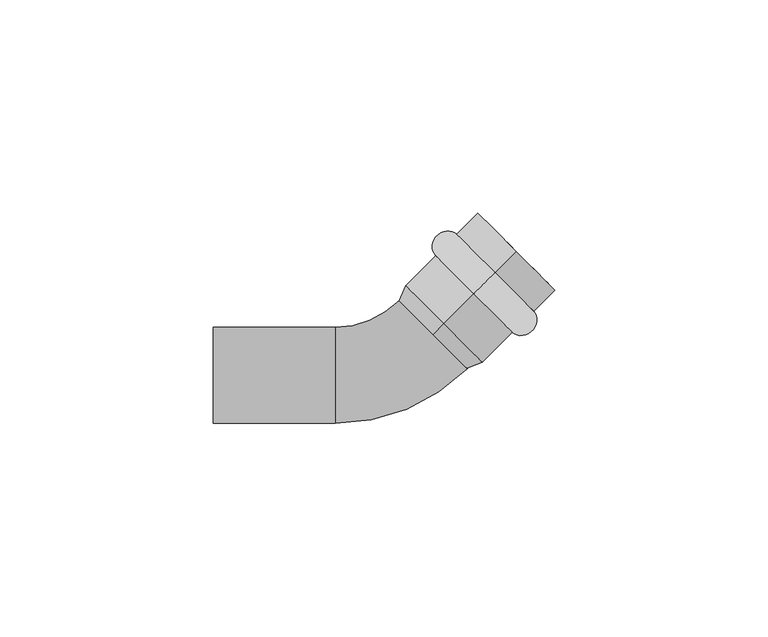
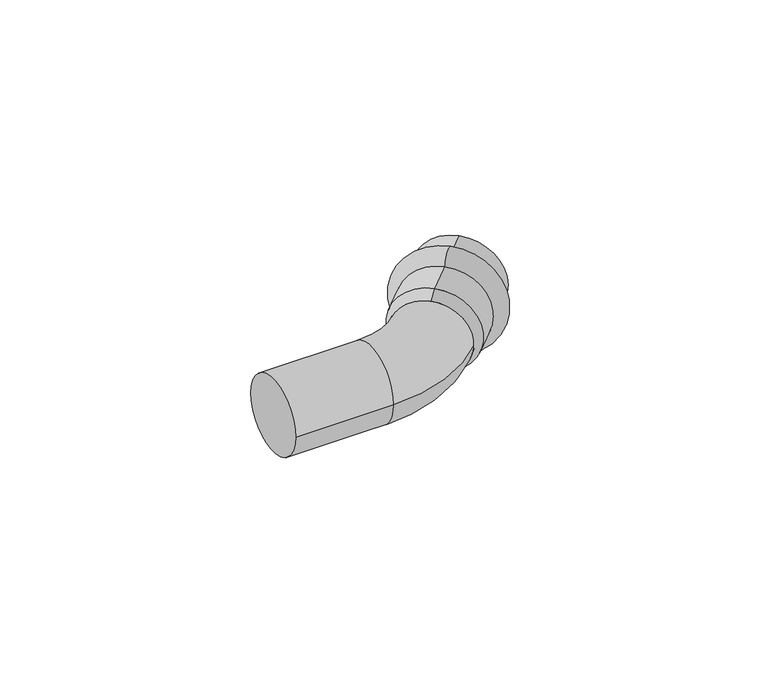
"""IFC4 building model written with IfcOpenShell, lengths in millimetres: pipe fitting geometry, РЕХАУ_Пресс Отвод-вставка : 22 x 45°."""

import ifcopenshell
import ifcopenshell.guid

model = None  # the IFC model being written
_history = None  # IfcOwnerHistory: only IFC2X3 demands one
_inside = {}  # id of a spatial element -> (the spatial element, [elements in it])
_under = {}  # id of a project, library or spatial element -> (it, [spatial elements below it])
_declared = {}  # id of a project -> (the project, [libraries it declares])
_typed = {}  # id of a type object -> (the type object, [elements of that type])
_made_of = {}  # id of a material, layer set ... -> (it, [elements and type objects made of it])


def new_model(schema):
    """Start an empty IFC model of exactly this schema.

    Asked for "IFC4X3", IfcOpenShell would pick the latest addendum, in which some entities
    have other attributes; the version numbers below select the first issue.
    IFC2X3 requires an IfcOwnerHistory on every rooted entity: one is made here for all.
    """
    global model, _history
    if schema == "IFC4X3":
        model = ifcopenshell.file(schema_version=(4, 3, 0, 0))
    else:
        model = ifcopenshell.file(schema=schema)
    _inside.clear()
    _under.clear()
    _declared.clear()
    _typed.clear()
    _made_of.clear()
    _history = None
    if model.schema == "IFC2X3":
        org = make("IfcOrganization", Name="unknown")
        user = make(
            "IfcPersonAndOrganization",
            ThePerson=make("IfcPerson", FamilyName="unknown"),
            TheOrganization=org,
        )
        app = make(
            "IfcApplication",
            ApplicationDeveloper=org,
            Version="unknown",
            ApplicationFullName="unknown",
            ApplicationIdentifier="unknown",
        )
        _history = make(
            "IfcOwnerHistory",
            OwningUser=user,
            OwningApplication=app,
            ChangeAction="ADDED",
            CreationDate=0,
        )
    return model


def make(cls, **values):
    """One entity of the class cls with the attributes given. An attribute that is None is left unset."""
    return model.create_entity(
        cls, **{name: value for name, value in values.items() if value is not None}
    )


def rooted(cls, **values):
    """An entity with a GlobalId (a new one), such as an element, a storey or a relation."""
    return make(cls, GlobalId=ifcopenshell.guid.new(), OwnerHistory=_history, **values)


def si_unit(unit_type, name, prefix=None):
    """IfcSIUnit, for example si_unit("LENGTHUNIT", "METRE", prefix="MILLI")."""
    return make("IfcSIUnit", UnitType=unit_type, Prefix=prefix, Name=name)


def assignment(units):
    """IfcUnitAssignment: the units of a project."""
    return None if units is None else make("IfcUnitAssignment", Units=units)


def point(xyz):
    """IfcCartesianPoint."""
    return None if xyz is None else make("IfcCartesianPoint", Coordinates=xyz)


def direction(xyz):
    """IfcDirection."""
    return None if xyz is None else make("IfcDirection", DirectionRatios=xyz)


def frame(location, z_axis=None, x_axis=None):
    """IfcAxis2Placement3D, a coordinate frame: its origin and axes. An axis left out is left unset."""
    return make(
        "IfcAxis2Placement3D",
        Location=point(location),
        Axis=direction(z_axis),
        RefDirection=direction(x_axis),
    )


def origin():
    """The frame at (0, 0, 0) with its axes left unset."""
    return frame((0.0, 0.0, 0.0))


def place(relative_to, where):
    """IfcLocalPlacement: puts the frame where relative to a parent placement (None: the world)."""
    return make(
        "IfcLocalPlacement", PlacementRelTo=relative_to, RelativePlacement=where
    )


def context(
    kind, dimensions, precision=None, world=None, true_north=None, identifier=None
):
    """IfcGeometricRepresentationContext, for example the 3D "Model" context."""
    return make(
        "IfcGeometricRepresentationContext",
        ContextIdentifier=identifier,
        ContextType=kind,
        CoordinateSpaceDimension=dimensions,
        Precision=precision,
        WorldCoordinateSystem=world,
        TrueNorth=true_north,
    )


def project(units=None, contexts=None):
    """IfcProject with its units and contexts."""
    return rooted(
        "IfcProject",
        Name="project",
        RepresentationContexts=contexts,
        UnitsInContext=assignment(units),
    )


def spatial(cls, under=None, at=None, **own):
    """A site, building, storey or space (cls), placed at a placement, below another one or the project."""
    s = rooted(cls, ObjectPlacement=at, **own)
    if under is not None:
        _under.setdefault(under.id(), (under, []))[1].append(s)
    return s


def polyline(points):
    """IfcPolyline through the points."""
    return make("IfcPolyline", Points=[point(p) for p in points])


def circle_curve(where, radius):
    """IfcCircle in the frame where."""
    return make("IfcCircle", Position=where, Radius=radius)


def ellipse_curve(where, semi_axis1, semi_axis2):
    """IfcEllipse in the frame where."""
    return make(
        "IfcEllipse", Position=where, SemiAxis1=semi_axis1, SemiAxis2=semi_axis2
    )


def trimmed(basis, trim1, trim2, sense, master):
    """IfcTrimmedCurve: the piece of a basis curve between two trims."""
    return make(
        "IfcTrimmedCurve",
        BasisCurve=basis,
        Trim1=trim1,
        Trim2=trim2,
        SenseAgreement=sense,
        MasterRepresentation=master,
    )


def shape(context_of_items, identifier, shape_type, items):
    """IfcShapeRepresentation: the items that make up one representation, for example the "Body"."""
    return make(
        "IfcShapeRepresentation",
        ContextOfItems=context_of_items,
        RepresentationIdentifier=identifier,
        RepresentationType=shape_type,
        Items=items,
    )


def source(mapping_origin, context_of_items, identifier, shape_type, items):
    """IfcRepresentationMap: a shape defined once, which mapped items show again and again."""
    return make(
        "IfcRepresentationMap",
        MappingOrigin=mapping_origin,
        MappedRepresentation=shape(context_of_items, identifier, shape_type, items),
    )


def transform(
    local_origin,
    x_axis=None,
    y_axis=None,
    z_axis=None,
    scale=None,
    scale2=None,
    scale3=None,
    uniform=True,
):
    """IfcCartesianTransformationOperator3D, or its non-uniform kind. x_axis, y_axis, z_axis: its Axis1, 2, 3."""
    if uniform:
        return make(
            "IfcCartesianTransformationOperator3D",
            Axis1=direction(x_axis),
            Axis2=direction(y_axis),
            LocalOrigin=point(local_origin),
            Scale=scale,
            Axis3=direction(z_axis),
        )
    return make(
        "IfcCartesianTransformationOperator3DnonUniform",
        Axis1=direction(x_axis),
        Axis2=direction(y_axis),
        LocalOrigin=point(local_origin),
        Scale=scale,
        Axis3=direction(z_axis),
        Scale2=scale2,
        Scale3=scale3,
    )


def mapped(mapping_source, mapping_target):
    """IfcMappedItem: shows the shape of a source again, moved by a transform."""
    return make(
        "IfcMappedItem", MappingSource=mapping_source, MappingTarget=mapping_target
    )


def made_of(thing, what):
    """Note that an element or type object is made of a material, layer set ...; save() writes the relation."""
    if what is not None:
        _made_of.setdefault(what.id(), (what, []))[1].append(thing)
    return thing


def element(
    cls,
    number,
    at=None,
    inside=None,
    cuts=None,
    type_object=None,
    material=None,
    context=None,
    identifier="Body",
    shape_type=None,
    held_by="IfcProductDefinitionShape",
    body=None,
    shapes=None,
    **own,
):
    """One element of the class cls, such as IfcWall. Its Tag is "e" and its number.

    at: its placement. inside: the storey or other place that contains it. cuts: it is an
    opening in that element (IfcRelVoidsElement). A single representation is given by context,
    identifier, shape_type and body (its items); several are given by shapes. held_by: the class
    of the entity that holds the representations. save() writes the other relations.
    """
    e = rooted(cls, Tag="e%d" % number, ObjectPlacement=at, **own)
    if body is not None:
        shapes = [shape(context, identifier, shape_type, body)]
    if shapes is not None:
        e.Representation = make(held_by, Representations=shapes)
    if inside is not None:
        _inside.setdefault(inside.id(), (inside, []))[1].append(e)
    if cuts is not None:
        rooted(
            "IfcRelVoidsElement", RelatingBuildingElement=cuts, RelatedOpeningElement=e
        )
    if type_object is not None:
        _typed.setdefault(type_object.id(), (type_object, []))[1].append(e)
    return made_of(e, material)


def aggregate(whole, parts):
    """IfcRelAggregates: a whole, such as a stair, and the parts it consists of."""
    return rooted("IfcRelAggregates", RelatingObject=whole, RelatedObjects=parts)


def save(model, path):
    """Write the relations noted so far, then the file.

    IfcRelAggregates (storeys below a building ...), IfcRelContainedInSpatialStructure (elements
    in a storey), IfcRelDefinesByType, IfcRelAssociatesMaterial and IfcRelDeclares: one each for
    every whole, place, type object, material and project.
    """
    for whole, parts in _under.values():
        aggregate(whole, parts)
    for where, things in _inside.values():
        rooted(
            "IfcRelContainedInSpatialStructure",
            RelatedElements=things,
            RelatingStructure=where,
        )
    for kind, things in _typed.values():
        rooted("IfcRelDefinesByType", RelatedObjects=things, RelatingType=kind)
    for what, things in _made_of.values():
        rooted("IfcRelAssociatesMaterial", RelatedObjects=things, RelatingMaterial=what)
    for by, libraries in _declared.values():
        rooted("IfcRelDeclares", RelatingContext=by, RelatedDefinitions=libraries)
    model.write(path)


def plane_surface(at):
    """IfcPlane: the flat surface through the origin of the frame at, square to its z axis."""
    return make("IfcPlane", Position=at)


def cylinder_surface(at, radius):
    """IfcCylindricalSurface: all points at the distance radius from the z axis of the frame at."""
    return make("IfcCylindricalSurface", Position=at, Radius=radius)


def revolved_surface(curve, axis_point, axis_direction):
    """IfcSurfaceOfRevolution: the curve turned about the line through axis_point along axis_direction."""
    return make(
        "IfcSurfaceOfRevolution",
        SweptCurve=make("IfcArbitraryOpenProfileDef", ProfileType="CURVE", Curve=curve),
        AxisPosition=make("IfcAxis1Placement", Location=point(axis_point), Axis=direction(axis_direction)),
    )


def advanced_brep(points, edges, surfaces, faces):
    """IfcAdvancedBrep: a solid bounded by faces that lie on surfaces and meet in shared edges.

    An edge is (start, end): straight between two places in points (the first is 0);
    or (start, end, curve); or (start, end, curve, False) where it runs against its curve.
    A face is (place in surfaces, loops), or (place, loops, False) where it looks against
    its surface's normal. A loop lists edges by number (the first is 1), with a minus sign
    where the edge is run from its end to its start. The first loop is the outer one.
    """
    corners = [point(p) for p in points]
    vertices = [make("IfcVertexPoint", VertexGeometry=c) for c in corners]
    made = []
    for start, end, *more in edges:
        made.append(
            make(
                "IfcEdgeCurve",
                EdgeStart=vertices[start],
                EdgeEnd=vertices[end],
                EdgeGeometry=more[0] if more else make("IfcPolyline", Points=[corners[start], corners[end]]),
                SameSense=more[1] if len(more) > 1 else True,
            )
        )
    hull = []
    for where, loops, *sense in faces:
        bounds = []
        for j, loop in enumerate(loops):
            ring = [make("IfcOrientedEdge", EdgeElement=made[abs(k) - 1], Orientation=k > 0) for k in loop]
            bounds.append(
                make(
                    "IfcFaceOuterBound" if j == 0 else "IfcFaceBound",
                    Bound=make("IfcEdgeLoop", EdgeList=ring),
                    Orientation=True,
                )
            )
        hull.append(make("IfcAdvancedFace", Bounds=bounds, FaceSurface=surfaces[where], SameSense=sense[0] if sense else True))
    return make("IfcAdvancedBrep", Outer=make("IfcClosedShell", CfsFaces=hull))


def pipe_fitting_3d55b7d6(model_context):
    return source(origin(), model_context, "Body", "AdvancedBrep", [
        advanced_brep(
        [(66.0416306, 24.0416306, 12.75), (66.0416306, 24.0416306, -12.75), (61.0918831, 19.0918831, -12.75), (61.0918831, 19.0918831, 12.75)],
        [
            (0, 1, circle_curve(frame((66.0416306, 24.0416306, 0.0), z_axis=(0.7071067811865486, 0.7071067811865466, 0.0), x_axis=(0.0, 0.0, -1.0)), 12.75)),
            (1, 2),
            (2, 3, circle_curve(frame((61.0918831, 19.0918831, 0.0), z_axis=(-0.7071067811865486, -0.7071067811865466, 0.0), x_axis=(0.0, 0.0, -1.0)), 12.75)),
            (3, 0),
            (1, 0, circle_curve(frame((66.0416306, 24.0416306, 0.0), z_axis=(0.7071067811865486, 0.7071067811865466, 0.0), x_axis=(0.0, 0.0, -1.0)), 12.75)),
            (3, 2, circle_curve(frame((61.0918831, 19.0918831, 0.0), z_axis=(-0.7071067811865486, -0.7071067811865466, 0.0), x_axis=(0.0, 0.0, -1.0)), 12.75)),
            (2, 1, ellipse_curve(frame((63.5667568, 21.5667568, -12.75), z_axis=(0.7071067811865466, -0.7071067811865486, 0.0), x_axis=(0.7071067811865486, 0.7071067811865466, 0.0)), 3.5, 3.1)),
            (0, 3, ellipse_curve(frame((63.5667568, 21.5667568, 12.75), z_axis=(0.7071067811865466, -0.7071067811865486, 0.0), x_axis=(0.7071067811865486, 0.7071067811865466, 0.0)), 3.5, 3.1)),
        ],
        [
            revolved_surface(polyline([(61.09188310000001, 19.091883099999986, -12.75), (66.04163060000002, 24.041630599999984, -12.75)]), (51.8994949, 9.8994949, 0.0), (-0.7071067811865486, -0.7071067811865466, 0.0)),
            revolved_surface(trimmed(ellipse_curve(frame((63.5667568, 21.5667568, -12.75), z_axis=(-0.7071067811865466, 0.7071067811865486, 0.0), x_axis=(0.7071067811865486, 0.7071067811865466, 0.0)), 3.5, 3.1), [point((66.0416306, 24.0416306, -12.75))], [point((61.0918831, 19.0918831, -12.75))], True, "CARTESIAN"), (51.8994949, 9.8994949, 0.0), (-0.7071067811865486, -0.7071067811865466, 0.0)),
        ],
        [
            (0, [[1, 2, 3, 4]]),
            (0, [[5, -4, 6, -2]]),
            (1, [[-3, 7, -1, 8]]),
            (1, [[-6, -8, -5, -7]]),
        ],
    ),
        advanced_brep(
        [(51.5220565, 9.5220565, 11.25), (51.5220565, 9.5220565, -11.25), (54.0208153, 12.0208153, -12.75), (54.0208153, 12.0208153, 12.75), (70.991378, 28.991378, 11.25), (70.991378, 28.991378, -11.25), (70.991378, 28.991378, 12.75), (70.991378, 28.991378, -12.75)],
        [
            (0, 1, circle_curve(frame((51.5220565, 9.5220565, 0.0), z_axis=(0.7071067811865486, 0.7071067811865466, 0.0), x_axis=(0.0, 0.0, -1.0)), 11.25)),
            (1, 2),
            (2, 3, circle_curve(frame((54.0208153, 12.0208153, 0.0), z_axis=(-0.7071067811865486, -0.7071067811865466, 0.0), x_axis=(0.0, 0.0, -1.0)), 12.75)),
            (3, 0),
            (1, 0, circle_curve(frame((51.5220565, 9.5220565, 0.0), z_axis=(0.7071067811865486, 0.7071067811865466, 0.0), x_axis=(0.0, 0.0, -1.0)), 11.25)),
            (3, 2, circle_curve(frame((54.0208153, 12.0208153, 0.0), z_axis=(-0.7071067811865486, -0.7071067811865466, 0.0), x_axis=(0.0, 0.0, -1.0)), 12.75)),
            (4, 5, circle_curve(frame((70.991378, 28.991378, 0.0), z_axis=(0.7071067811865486, 0.7071067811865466, 0.0), x_axis=(0.0, 0.0, -1.0)), 11.25)),
            (5, 1),
            (0, 4),
            (5, 4, circle_curve(frame((70.991378, 28.991378, 0.0), z_axis=(0.7071067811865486, 0.7071067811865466, 0.0), x_axis=(0.0, 0.0, -1.0)), 11.25)),
            (6, 7, circle_curve(frame((70.991378, 28.991378, 0.0), z_axis=(0.7071067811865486, 0.7071067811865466, 0.0), x_axis=(0.0, 0.0, -1.0)), 12.75)),
            (7, 5),
            (4, 6),
            (7, 6, circle_curve(frame((70.991378, 28.991378, 0.0), z_axis=(0.7071067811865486, 0.7071067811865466, 0.0), x_axis=(0.0, 0.0, -1.0)), 12.75)),
            (2, 7),
            (6, 3),
        ],
        [
            revolved_surface(polyline([(54.0208153, 12.0208153, -12.75), (51.5220565, 9.5220565, -11.25)]), (51.8994949, 9.8994949, 0.0), (-0.7071067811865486, -0.7071067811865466, 0.0)),
            revolved_surface(polyline([(51.5220565, 9.5220565, -11.25), (70.99137800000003, 28.991377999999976, -11.25)]), (51.8994949, 9.8994949, 0.0), (-0.7071067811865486, -0.7071067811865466, 0.0)),
            plane_surface(frame((70.991378, 28.991378, 0.0), z_axis=(0.7071067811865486, 0.7071067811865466, 0.0), x_axis=(0.0, 0.0, -1.0))),
            cylinder_surface(frame((51.8994949, 9.8994949, 0.0), z_axis=(-0.7071067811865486, -0.7071067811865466, 0.0), x_axis=(0.0, 0.0, -1.0)), 12.75),
        ],
        [
            (0, [[1, 2, 3, 4]]),
            (0, [[5, -4, 6, -2]]),
            (1, [[7, 8, -1, 9]]),
            (1, [[10, -9, -5, -8]]),
            (2, [[11, 12, -7, 13]]),
            (2, [[14, -13, -10, -12]]),
            (3, [[-3, 15, -11, 16]]),
            (3, [[-6, -16, -14, -15]]),
        ],
    ),
        advanced_brep(
        [(0.0, -11.25, 0.0), (0.0, 11.25, 0.0), (28.5337785, -11.25, 0.0), (28.5337785, 11.25, 0.0), (43.5671052, 17.4770078, 0.0), (59.4770078, 1.5671052, 0.0), (61.9757666, 4.065864, 0.0), (46.065864, 19.9757666, 0.0)],
        [
            (0, 1, circle_curve(frame((0.0, 0.0, 0.0), z_axis=(-1.0, 0.0, 0.0), x_axis=(0.0, 1.0, 0.0)), 11.25)),
            (1, 0, circle_curve(frame((0.0, 0.0, 0.0), z_axis=(-1.0, 0.0, 0.0), x_axis=(0.0, 1.0, 0.0)), 11.25)),
            (0, 2),
            (2, 3, circle_curve(frame((28.5337785, 0.0, 0.0), z_axis=(-1.0, 0.0, 0.0), x_axis=(0.0, 1.0, 0.0)), 11.25)),
            (3, 1),
            (3, 2, circle_curve(frame((28.5337785, 0.0, 0.0), z_axis=(-1.0, 0.0, 0.0), x_axis=(0.0, 1.0, 0.0)), 11.25)),
            (4, 3, circle_curve(frame((28.5337785, 32.5103345, 0.0), z_axis=(0.0, 0.0, -1.0), x_axis=(0.0, -1.0, 0.0)), 21.2603345)),
            (2, 5, circle_curve(frame((28.5337785, 32.5103345, 0.0), z_axis=(0.0, 0.0, 1.0), x_axis=(0.0, -1.0, 0.0)), 43.7603345)),
            (5, 4, circle_curve(frame((51.5220565, 9.5220565, 0.0), z_axis=(-0.7071067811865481, -0.7071067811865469, 0.0), x_axis=(-0.7071067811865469, 0.7071067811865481, 0.0)), 11.25)),
            (4, 5, circle_curve(frame((51.5220565, 9.5220565, 0.0), z_axis=(-0.7071067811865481, -0.7071067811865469, 0.0), x_axis=(-0.7071067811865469, 0.7071067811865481, 0.0)), 11.25)),
            (6, 7, circle_curve(frame((54.0208153, 12.0208153, 0.0), z_axis=(0.7071067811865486, 0.7071067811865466, 0.0), x_axis=(-0.7071067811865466, 0.7071067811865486, 0.0)), 11.25)),
            (7, 6, circle_curve(frame((54.0208153, 12.0208153, 0.0), z_axis=(0.7071067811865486, 0.7071067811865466, 0.0), x_axis=(-0.7071067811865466, 0.7071067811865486, 0.0)), 11.25)),
            (5, 6),
            (7, 4),
        ],
        [
            plane_surface(frame((0.0, 0.0, 0.0), z_axis=(-1.0, 0.0, 0.0), x_axis=(0.0, 0.0, 1.0))),
            cylinder_surface(frame((0.0, 0.0, 0.0), z_axis=(-1.0, 0.0, 0.0), x_axis=(0.0, 1.0, 0.0)), 11.25),
            revolved_surface(trimmed(ellipse_curve(frame((28.5337785, 0.0, 0.0), z_axis=(-1.0, 0.0, 0.0), x_axis=(0.0, 1.0, 0.0)), 11.25, 11.25), [point((28.5337785, -11.25, 0.0))], [point((28.5337785, 11.25, 0.0))], True, "CARTESIAN"), (28.5337785, 32.5103345, 0.0), (0.0, 0.0, 1.0)),
            revolved_surface(trimmed(ellipse_curve(frame((28.5337785, 0.0, 0.0), z_axis=(-1.0, 0.0, 0.0), x_axis=(0.0, 1.0, 0.0)), 11.25, 11.25), [point((28.5337785, 11.25, 0.0))], [point((28.5337785, -11.25, 0.0))], True, "CARTESIAN"), (28.5337785, 32.5103345, 0.0), (0.0, 0.0, 1.0)),
            plane_surface(frame((54.0208153, 12.0208153, 0.0), z_axis=(0.7071067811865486, 0.7071067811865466, 0.0), x_axis=(0.0, 0.0, 1.0))),
            cylinder_surface(frame((51.5220565, 9.5220565, 0.0), z_axis=(-0.7071067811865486, -0.7071067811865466, 0.0), x_axis=(-0.7071067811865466, 0.7071067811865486, 0.0)), 11.25),
        ],
        [
            (0, [[1, 2]]),
            (1, [[-1, 3, 4, 5]]),
            (1, [[-2, -5, 6, -3]]),
            (2, [[7, -4, 8, 9]]),
            (3, [[-8, -6, -7, 10]]),
            (4, [[11, 12]]),
            (5, [[-9, 13, -12, 14]]),
            (5, [[-10, -14, -11, -13]]),
        ],
    ),
    ])


if __name__ == "__main__":
    model = new_model("IFC4")
    model_context = context("Model", 3, world=origin())
    ifc_project = project(units=[si_unit("LENGTHUNIT", "METRE", prefix="MILLI")], contexts=[model_context])
    site = spatial("IfcSite", under=ifc_project)
    building = spatial("IfcBuilding", under=site)
    placement = place(None, origin())
    pipe_fitting_shape = pipe_fitting_3d55b7d6(model_context)
    element("IfcPipeFitting", 1, ObjectType="РЕХАУ_Пресс Отвод-вставка : 22 x 45°", at=placement, inside=building, context=model_context, shape_type="MappedRepresentation", body=[
        mapped(pipe_fitting_shape, transform((0.0, 0.0, 0.0), x_axis=(1.0, 0.0, 0.0), y_axis=(0.0, 1.0, 0.0), z_axis=(0.0, 0.0, 1.0))),
    ])
    save(model, "model.ifc")
